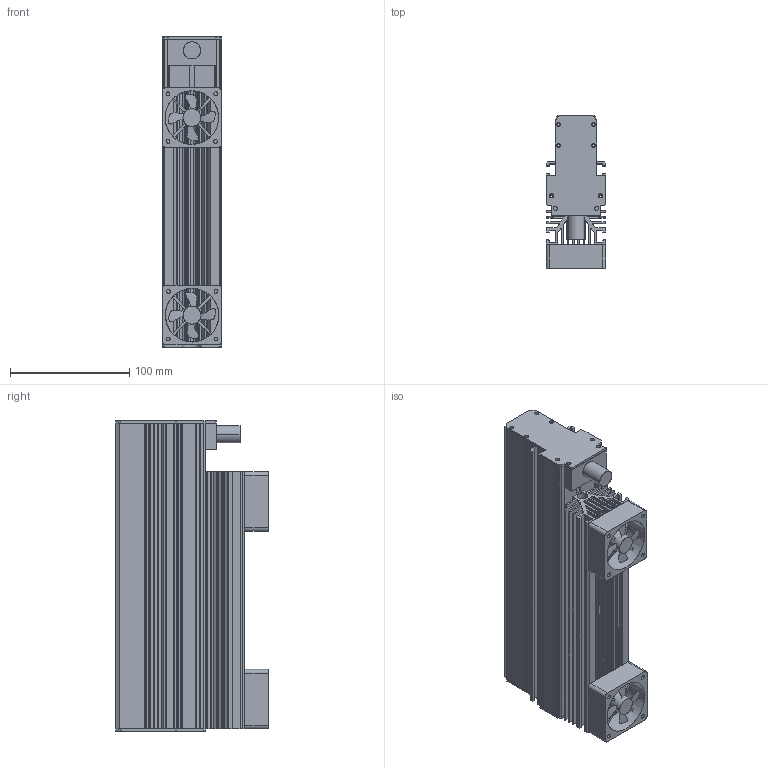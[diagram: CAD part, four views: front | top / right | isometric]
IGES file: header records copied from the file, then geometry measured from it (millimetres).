
Start section: SolidWorks IGES file using analytic representation for surfaces
Global section: file name: 8HD:\SynologyDrive\新款图纸\标准产品\线扫\LS示意图\LS257.IGS; native system: SolidWorks 2021; preprocessor: SolidWorks 2021; author: Administrator; date: 220322.103205; units: millimetre
Bounding box: 50.19 x 128.51 x 261 mm (x, y, z)
Surface area: 392269.4 mm2 (no closed solid volume)
Topology: 0 solids, 0 shells, 777 faces, 8654 edges, 8654 vertices
Faces by surface type: bspline 393, revolution 384
